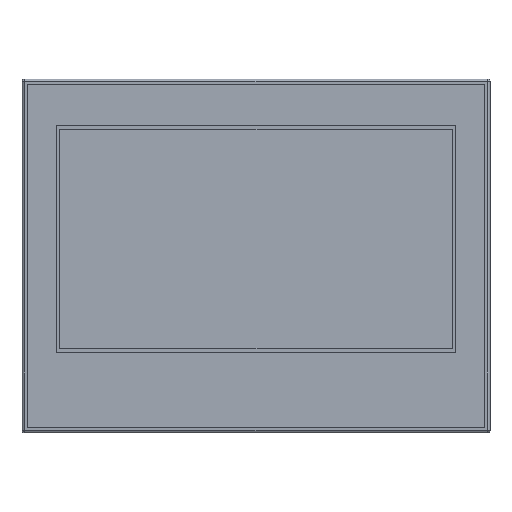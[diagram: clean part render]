
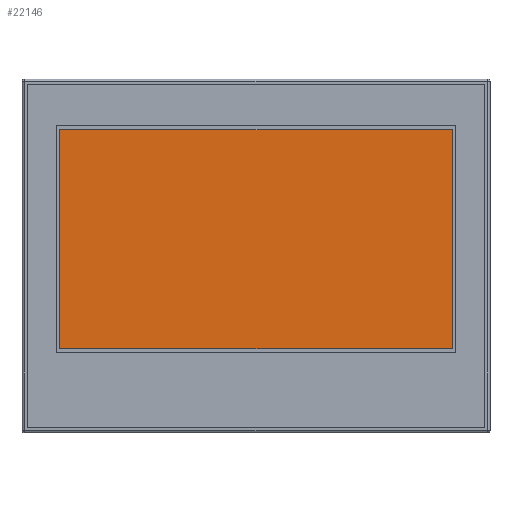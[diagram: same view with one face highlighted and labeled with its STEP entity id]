
A CAD part, top view. The second image highlights one B-rep face of the part: STEP entity #22146.
In plain terms, the highlighted planar face has unit normal (0, 0, 1).
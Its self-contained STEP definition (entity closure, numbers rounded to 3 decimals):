
#648 = ORIENTED_EDGE ( 'NONE', *, *, #21489, .T. ) ;
#733 = AXIS2_PLACEMENT_3D ( 'NONE', #5689, #9123, #29737 ) ;
#830 = VECTOR ( 'NONE', #17873, 1000. ) ;
#1297 = VERTEX_POINT ( 'NONE', #6290 ) ;
#1829 = EDGE_CURVE ( 'NONE', #6819, #1297, #43179, .T. ) ;
#3719 = DIRECTION ( 'NONE',  ( -1., 0., 0. ) ) ;
#5689 = CARTESIAN_POINT ( 'NONE',  ( 0., 0., 0. ) ) ;
#6037 = CARTESIAN_POINT ( 'NONE',  ( 12.61, 30.8, 0. ) ) ;
#6290 = CARTESIAN_POINT ( 'NONE',  ( 12.61, 116.72, 0. ) ) ;
#6551 = CARTESIAN_POINT ( 'NONE',  ( 166.69, 116.72, 0. ) ) ;
#6819 = VERTEX_POINT ( 'NONE', #6551 ) ;
#8407 = DIRECTION ( 'NONE',  ( 0., 1., 0. ) ) ;
#8635 = ORIENTED_EDGE ( 'NONE', *, *, #9456, .T. ) ;
#9123 = DIRECTION ( 'NONE',  ( 0., 0., -1. ) ) ;
#9456 = EDGE_CURVE ( 'NONE', #12663, #6819, #42942, .T. ) ;
#11624 = FACE_OUTER_BOUND ( 'NONE', #43967, .T. ) ;
#11978 = VERTEX_POINT ( 'NONE', #15067 ) ;
#12663 = VERTEX_POINT ( 'NONE', #35232 ) ;
#14125 = VECTOR ( 'NONE', #8407, 1000. ) ;
#15067 = CARTESIAN_POINT ( 'NONE',  ( 12.61, 30.8, 0. ) ) ;
#17512 = LINE ( 'NONE', #6037, #36182 ) ;
#17873 = DIRECTION ( 'NONE',  ( 1., 0., 0. ) ) ;
#18850 = CARTESIAN_POINT ( 'NONE',  ( 166.69, 30.8, 0. ) ) ;
#21095 = LINE ( 'NONE', #38297, #830 ) ;
#21489 = EDGE_CURVE ( 'NONE', #1297, #11978, #17512, .T. ) ;
#22146 = ADVANCED_FACE ( 'NONE', ( #11624 ), #26277, .F. ) ;
#24872 = ORIENTED_EDGE ( 'NONE', *, *, #1829, .T. ) ;
#26277 = PLANE ( 'NONE',  #733 ) ;
#26632 = VECTOR ( 'NONE', #3719, 1000. ) ;
#29737 = DIRECTION ( 'NONE',  ( -1., 0., 0. ) ) ;
#30893 = CARTESIAN_POINT ( 'NONE',  ( 12.61, 116.72, 0. ) ) ;
#33624 = DIRECTION ( 'NONE',  ( 0., -1., 0. ) ) ;
#34573 = ORIENTED_EDGE ( 'NONE', *, *, #38087, .T. ) ;
#35232 = CARTESIAN_POINT ( 'NONE',  ( 166.69, 30.8, 0. ) ) ;
#36182 = VECTOR ( 'NONE', #33624, 1000. ) ;
#38087 = EDGE_CURVE ( 'NONE', #11978, #12663, #21095, .T. ) ;
#38297 = CARTESIAN_POINT ( 'NONE',  ( 12.61, 30.8, 0. ) ) ;
#42942 = LINE ( 'NONE', #18850, #14125 ) ;
#43179 = LINE ( 'NONE', #30893, #26632 ) ;
#43967 = EDGE_LOOP ( 'NONE', ( #648, #34573, #8635, #24872 ) ) ;
